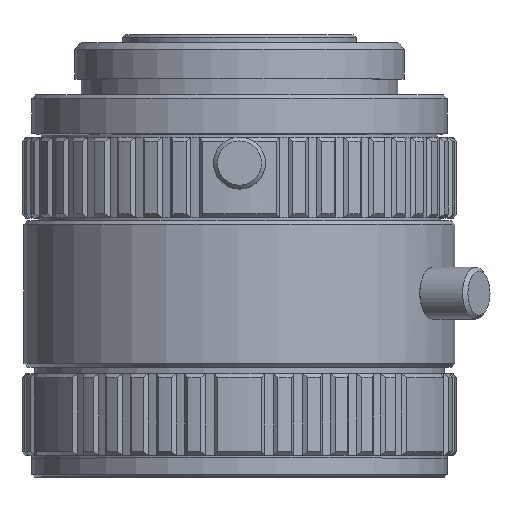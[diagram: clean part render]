
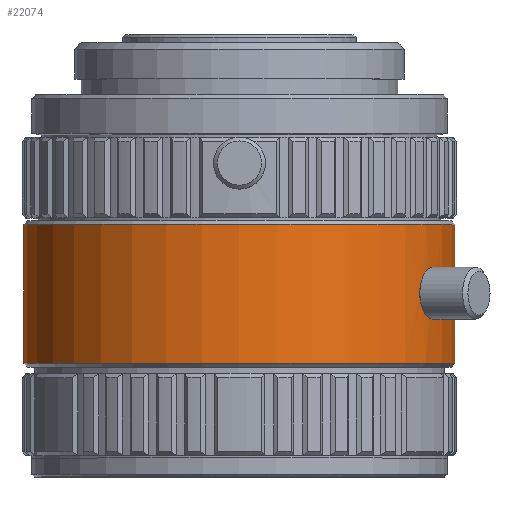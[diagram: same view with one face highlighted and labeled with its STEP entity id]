
A CAD part, top view. The second image highlights one B-rep face of the part: STEP entity #22074.
In plain terms, the highlighted cylindrical face has radius 16.6 mm (diameter 33.2 mm), a full revolution.
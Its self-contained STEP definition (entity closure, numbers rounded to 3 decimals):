
#1033=B_SPLINE_CURVE_WITH_KNOTS('',3,(#32437,#32438,#32439,#32440,#32441,
#32442,#32443,#32444,#32445,#32446,#32447),.UNSPECIFIED.,.T.,.F.,(1,1,1,
1,1,1,1,1,1,1,1,1,1,1,1),(-0.002,-0.002,-0.001,
0.,0.001,0.002,0.002,
0.003,0.004,0.005,0.005,
0.006,0.007,0.008,0.009),
 .UNSPECIFIED.);
#3649=ORIENTED_EDGE('',*,*,#7932,.T.);
#3650=ORIENTED_EDGE('',*,*,#7931,.F.);
#3651=ORIENTED_EDGE('',*,*,#7933,.F.);
#7931=EDGE_CURVE('',#9965,#9965,#11086,.T.);
#7932=EDGE_CURVE('',#9966,#9966,#11087,.T.);
#7933=EDGE_CURVE('',#9967,#9967,#1033,.T.);
#9965=VERTEX_POINT('',#32433);
#9966=VERTEX_POINT('',#32436);
#9967=VERTEX_POINT('',#32448);
#11086=CIRCLE('',#23531,16.6);
#11087=CIRCLE('',#23533,16.6);
#11993=EDGE_LOOP('',(#3649));
#11994=EDGE_LOOP('',(#3650));
#11995=EDGE_LOOP('',(#3651));
#13181=FACE_BOUND('',#11993,.T.);
#13182=FACE_BOUND('',#11994,.T.);
#13183=FACE_BOUND('',#11995,.T.);
#14191=CYLINDRICAL_SURFACE('',#23532,16.6);
#22074=ADVANCED_FACE('',(#13181,#13182,#13183),#14191,.T.);
#23531=AXIS2_PLACEMENT_3D('',#32432,#26418,#26419);
#23532=AXIS2_PLACEMENT_3D('',#32434,#26420,#26421);
#23533=AXIS2_PLACEMENT_3D('',#32435,#26422,#26423);
#26418=DIRECTION('',(0.,-1.,0.));
#26419=DIRECTION('',(1.,0.,0.));
#26420=DIRECTION('',(0.,-1.,0.));
#26421=DIRECTION('',(1.,0.,0.));
#26422=DIRECTION('',(0.,-1.,0.));
#26423=DIRECTION('',(1.,0.,0.));
#32432=CARTESIAN_POINT('',(0.,-38.2,0.));
#32433=CARTESIAN_POINT('',(16.6,-38.2,0.));
#32434=CARTESIAN_POINT('',(0.,0.,0.));
#32435=CARTESIAN_POINT('',(0.,-27.5,0.));
#32436=CARTESIAN_POINT('',(16.6,-27.5,0.));
#32437=CARTESIAN_POINT('',(13.972,-32.016,8.971));
#32438=CARTESIAN_POINT('',(13.789,-32.8,9.241));
#32439=CARTESIAN_POINT('',(13.971,-33.584,8.971));
#32440=CARTESIAN_POINT('',(14.382,-33.908,8.304));
#32441=CARTESIAN_POINT('',(14.755,-33.584,7.614));
#32442=CARTESIAN_POINT('',(14.897,-32.8,7.322));
#32443=CARTESIAN_POINT('',(14.755,-32.017,7.613));
#32444=CARTESIAN_POINT('',(14.383,-31.692,8.303));
#32445=CARTESIAN_POINT('',(13.972,-32.016,8.971));
#32446=CARTESIAN_POINT('',(13.789,-32.8,9.241));
#32447=CARTESIAN_POINT('',(13.971,-33.584,8.971));
#32448=CARTESIAN_POINT('',(13.85,-32.8,9.151));
